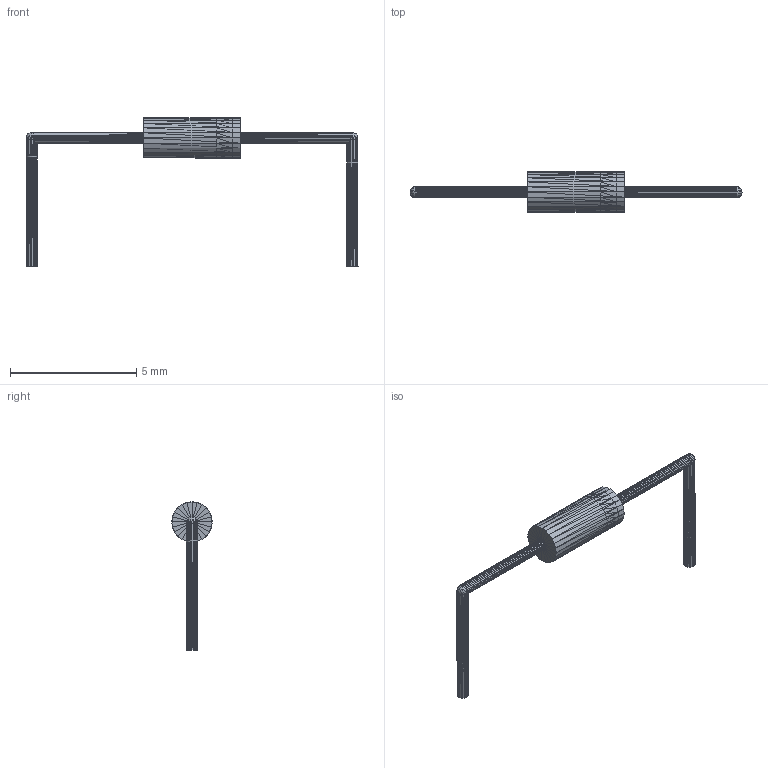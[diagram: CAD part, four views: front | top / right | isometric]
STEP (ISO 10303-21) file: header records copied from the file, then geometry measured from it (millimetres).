
FILE_DESCRIPTION(('HOOPS Exchange Step'),'2;1');
FILE_NAME('***.stp');
FILE_SCHEMA( ('AP242_MANAGED_MODEL_BASED_3D_ENGINEERING_MIM_LF {1 0 10303 442 1 1 4 }') );
Length unit declared in the file: inch
Products named in the file (8): DO-35_2; DO-35_3; DO-35_4; DO-35_5; DO-35_6; DO-35_7; DO-35_8; DO-35
Assembly tree (7 placements, depth 2):
  DO-35
    DO-35_2
    DO-35_3
    DO-35_4
    DO-35_5
    DO-35_6
    DO-35_7
    DO-35_8
Bounding box: 13.15 x 1.6 x 5.88 mm (x, y, z)
Volume: 12.3 mm3; surface area: 64 mm2
Topology: 7 solids, 7 shells, 1056 faces, 1584 edges, 542 vertices
Faces by surface type: plane 1056
Entity records: 20963 total; most frequent: DIRECTION 3728, CARTESIAN_POINT 3198, ORIENTED_EDGE 3168, VECTOR 1584, LINE 1584, EDGE_CURVE 1584, AXIS2_PLACEMENT_3D 1072, PLANE 1056
